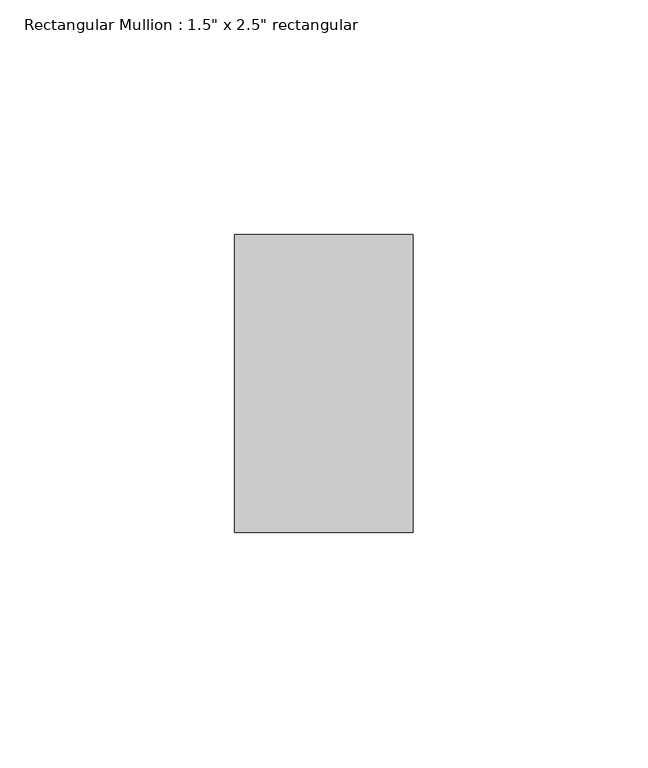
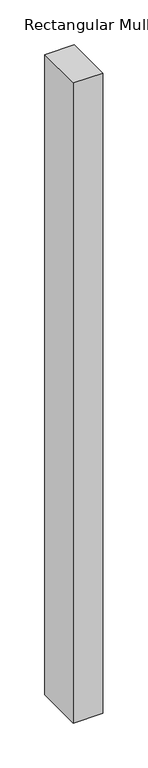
"""IFC4 building model written with IfcOpenShell, lengths in millimetres: member geometry."""

from ifc_helpers import new_model, si_unit, frame, origin, place, context, project, spatial, polyline, outline, extrude, source, transform, mapped, element, save


def member_62c71373(model_context):
    return source(origin(), model_context, "Body", "SweptSolid", [
        extrude(outline(polyline([(19.05, 31.75), (19.05, -31.75), (-19.05, -31.75), (-19.05, 31.75), (19.05, 31.75)])), frame((0.0, 0.0, -871.864222), z_axis=(0.0, 0.0, 1.0), x_axis=(1.0, 0.0, 0.0)), (0.0, 0.0, 1.0), 871.864222),
    ])


if __name__ == "__main__":
    model = new_model("IFC4")
    model_context = context("Model", 3, world=origin())
    ifc_project = project(units=[si_unit("LENGTHUNIT", "METRE", prefix="MILLI")], contexts=[model_context])
    site = spatial("IfcSite", under=ifc_project)
    building = spatial("IfcBuilding", under=site)
    placement = place(None, origin())
    member_shape = member_62c71373(model_context)
    element("IfcMember", 1, ObjectType="Rectangular Mullion : 1.5\" x 2.5\" rectangular", at=placement, inside=building, context=model_context, shape_type="MappedRepresentation", body=[
        mapped(member_shape, transform((0.0, 0.0, 0.0), x_axis=(1.0, 0.0, 0.0), y_axis=(0.0, 1.0, 0.0), z_axis=(0.0, 0.0, 1.0))),
    ])
    save(model, "model.ifc")
